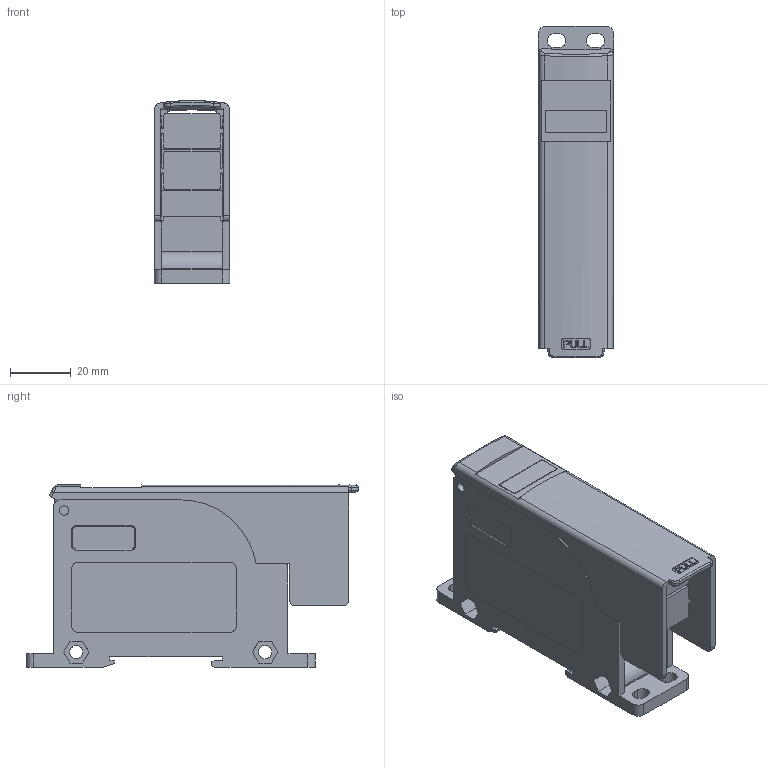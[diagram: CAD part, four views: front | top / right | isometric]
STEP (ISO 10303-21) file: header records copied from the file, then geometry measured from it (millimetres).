
FILE_DESCRIPTION(/* description */ (''),/* implementation_level */ '2;1');
FILE_NAME(/* name */ 'model1.stp',/* time_stamp */ '2019-10-31T18:26:39+09:00',/* author */ (''),/* organization */ (''),/* preprocessor_version */ 'ST-DEVELOPER v16.7',/* originating_system */ 'SIEMENS PLM Software NX 12.0',/* authorisation */ '');
FILE_SCHEMA (('AP203_CONFIGURATION_CONTROLLED_3D_DESIGN_OF_MECHANICAL_PARTS_AND_ASSEMBLIES_MIM_LF { 1 0 10303 403 2 1 2}'));
Length unit declared in the file: millimetre
Products named in the file (1): kim514C0DFB7nz8
Bounding box: 24.8 x 109 x 59.99 mm (x, y, z)
Volume: 70980.2 mm3; surface area: 30405.6 mm2
Topology: 1 solids, 1 shells, 309 faces, 872 edges, 579 vertices
Faces by surface type: plane 211, cylinder 78, bspline 8, extrusion 6, cone 4, torus 2
Full cylindrical faces by diameter (mm): 3.1 x2, 4.3 x2
Entity records: 10841 total; most frequent: CARTESIAN_POINT 2572, ORIENTED_EDGE 1750, DIRECTION 1618, EDGE_CURVE 875, VECTOR 654, LINE 648, VERTEX_POINT 589, AXIS2_PLACEMENT_3D 482
